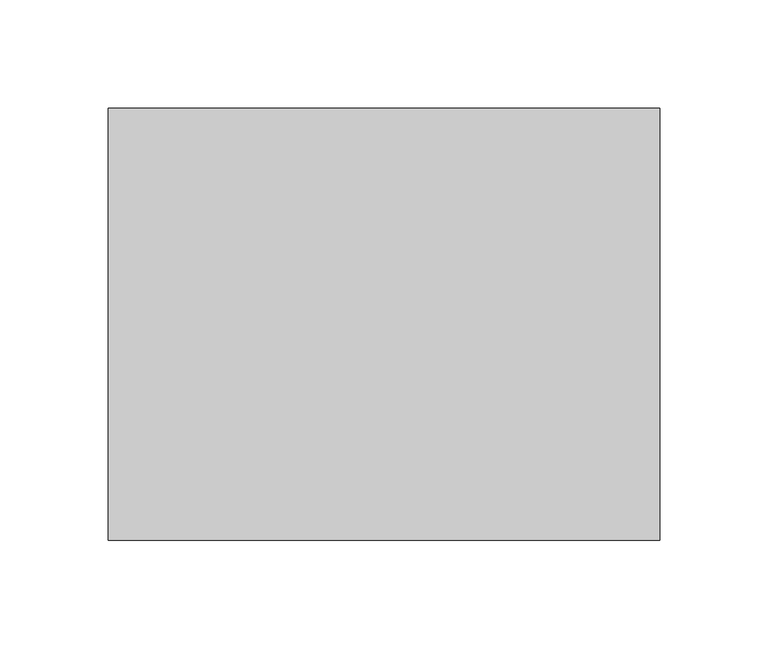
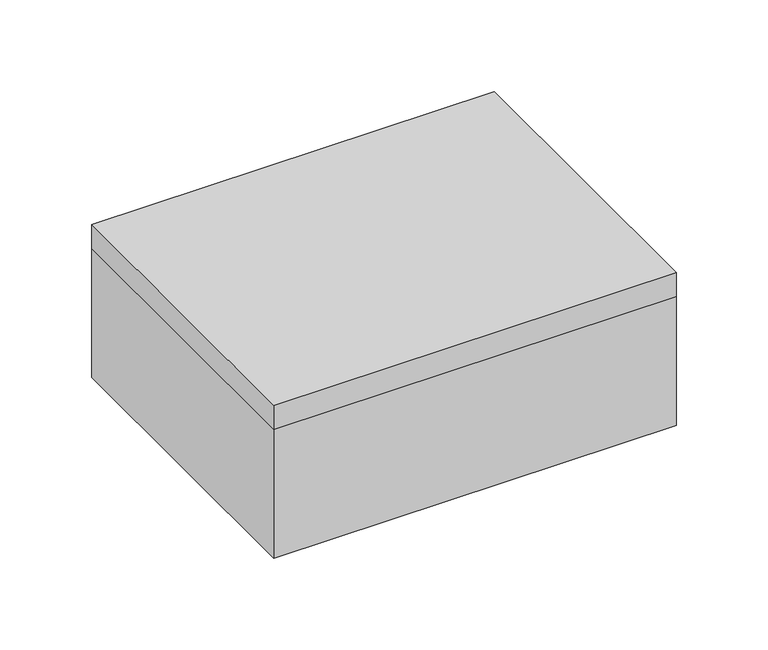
"""IFC4 building model written with IfcOpenShell, lengths in millimetres: cable carrier fitting geometry."""

from ifc_helpers import new_model, si_unit, origin, place, context, project, spatial, faceted_brep, source, transform, mapped, element, save


def cable_carrier_fitting_0eef3111(model_context):
    return source(origin(), model_context, "Body", "Brep", [
        faceted_brep([(127.0, 99.5, 102.0), (-127.0, 99.5, 102.0), (-127.0, -99.5, 102.0), (127.0, -99.5, 102.0), (-125.0, -97.5, 100.0), (-125.0, 97.5, 100.0), (125.0, 97.5, 100.0), (125.0, -97.5, 100.0), (127.0, 99.5, 86.0), (127.0, -99.5, 86.0), (-127.0, -99.5, 86.0), (-127.0, 99.5, 86.0), (-125.0, -97.5, 86.0), (125.0, -97.5, 86.0), (125.0, 97.5, 86.0), (-125.0, 97.5, 86.0)], [[[0, 1, 2, 3]], [[4, 5, 6, 7]], [[8, 9, 10, 11], [12, 13, 14, 15]], [[1, 0, 8, 11]], [[2, 1, 11, 10]], [[3, 2, 10, 9]], [[0, 3, 9, 8]], [[12, 15, 5, 4]], [[15, 14, 6, 5]], [[14, 13, 7, 6]], [[13, 12, 4, 7]]]),
        faceted_brep([(-125.0, -97.5, 2.0), (125.0, -97.5, 2.0), (125.0, 97.5, 2.0), (-125.0, 97.5, 2.0), (127.0, 99.5, 0.0), (127.0, -99.5, 0.0), (-127.0, -99.5, 0.0), (-127.0, 99.5, 0.0), (127.0, 99.5, 86.0), (-127.0, 99.5, 86.0), (-127.0, -99.5, 86.0), (127.0, -99.5, 86.0), (125.0, -97.5, 86.0), (-125.0, -97.5, 86.0), (-125.0, 97.5, 86.0), (125.0, 97.5, 86.0)], [[[0, 1, 2, 3]], [[4, 5, 6, 7]], [[8, 9, 10, 11], [12, 13, 14, 15]], [[9, 8, 4, 7]], [[10, 9, 7, 6]], [[11, 10, 6, 5]], [[8, 11, 5, 4]], [[13, 12, 1, 0]], [[14, 13, 0, 3]], [[15, 14, 3, 2]], [[12, 15, 2, 1]]]),
    ])


if __name__ == "__main__":
    model = new_model("IFC4")
    model_context = context("Model", 3, world=origin())
    ifc_project = project(units=[si_unit("LENGTHUNIT", "METRE", prefix="MILLI")], contexts=[model_context])
    site = spatial("IfcSite", under=ifc_project)
    building = spatial("IfcBuilding", under=site)
    placement = place(None, origin())
    cable_carrier_fitting_shape = cable_carrier_fitting_0eef3111(model_context)
    element("IfcCableCarrierFitting", 1, at=placement, inside=building, context=model_context, shape_type="MappedRepresentation", body=[
        mapped(cable_carrier_fitting_shape, transform((0.0, 0.0, 0.0), x_axis=(1.0, 0.0, 0.0), y_axis=(0.0, 1.0, 0.0), z_axis=(0.0, 0.0, 1.0))),
    ])
    save(model, "model.ifc")
